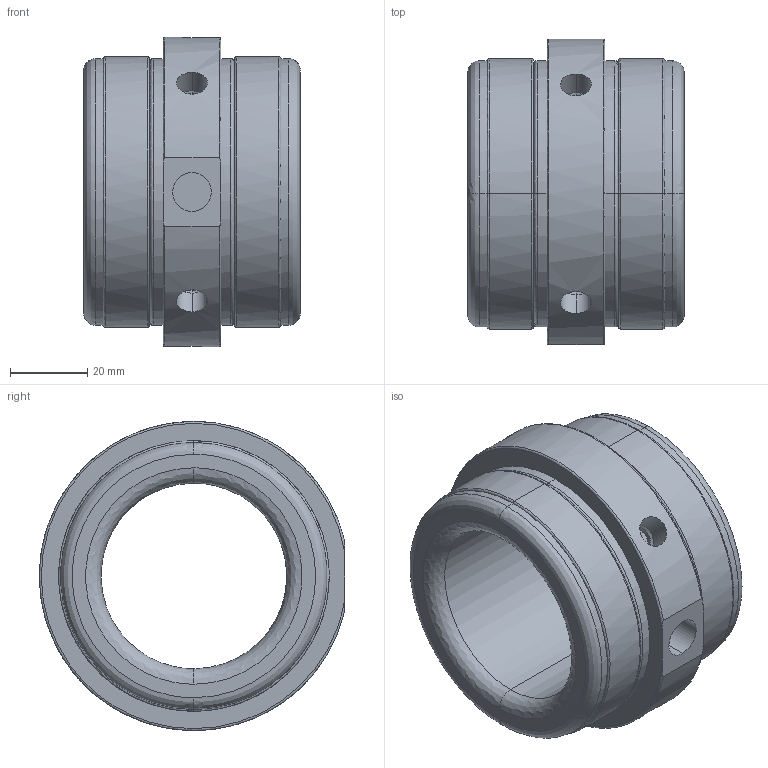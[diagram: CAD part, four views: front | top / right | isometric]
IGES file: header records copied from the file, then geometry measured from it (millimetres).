
Start section: ------------------------------------------------------------------------
Global section: file name: D:\ICADMX\tmp\trans3d_spg\TGMX25.588.RBG050GCA_8398.igs; native system: spGate; preprocessor: ver11.3.7; author: Unknown; organization: Unknown; date: 150330.135738; units: millimetre
Bounding box: 56 x 78.99 x 80 mm (x, y, z)
Volume: 125922.8 mm3; surface area: 28532.2 mm2
Topology: 1 solids, 1 shells, 79 faces, 172 edges, 92 vertices
Faces by surface type: bspline 79
